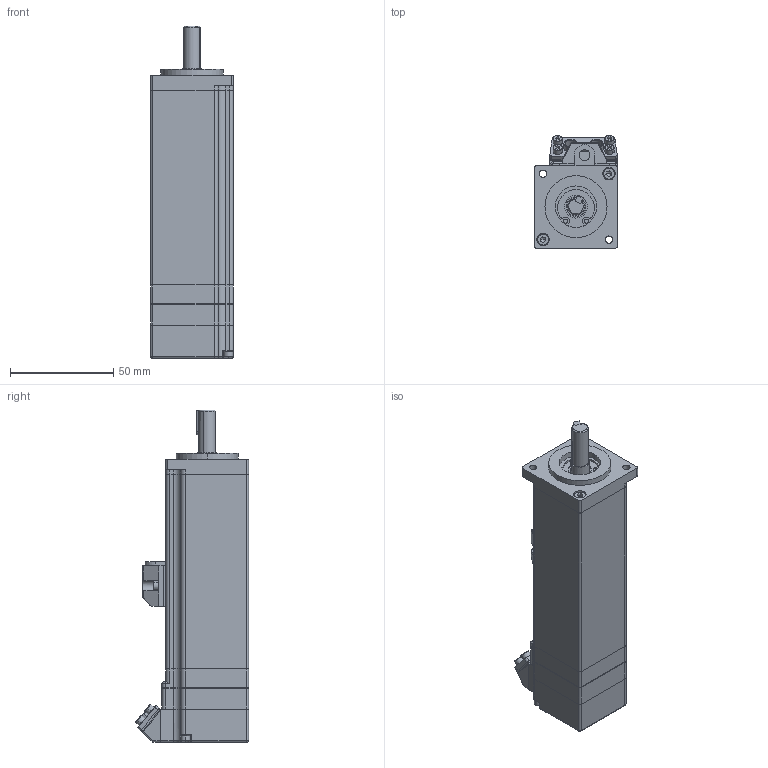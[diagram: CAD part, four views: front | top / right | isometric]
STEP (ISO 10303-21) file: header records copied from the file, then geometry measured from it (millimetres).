
FILE_DESCRIPTION (( 'STEP AP203' ), '1' );
FILE_NAME ('SMH40-1030B10EBL-2×Ü×°.STEP', '2020-03-18T01:57:36', ( 'user' ), ( '' ), 'SwSTEP 2.0', 'SolidWorks 2016', '' );
FILE_SCHEMA (( 'CONFIG_CONTROL_DESIGN' ));
Length unit declared in the file: millimetre
Products named in the file (1): SMH40-1030B10EBL-2軞蚾
Bounding box: 40 x 54.65 x 160.4 mm (x, y, z)
Volume: 91623.5 mm3; surface area: 67441.5 mm2
Topology: 25 solids, 25 shells, 1025 faces, 2796 edges, 1782 vertices
Faces by surface type: cylinder 426, plane 391, torus 106, cone 57, sphere 43, bspline 2
Entity records: 33062 total; most frequent: CARTESIAN_POINT 7054, DIRECTION 5647, ORIENTED_EDGE 5352, EDGE_CURVE 2676, AXIS2_PLACEMENT_3D 2221, VERTEX_POINT 1720, VECTOR 1205, LINE 1205
